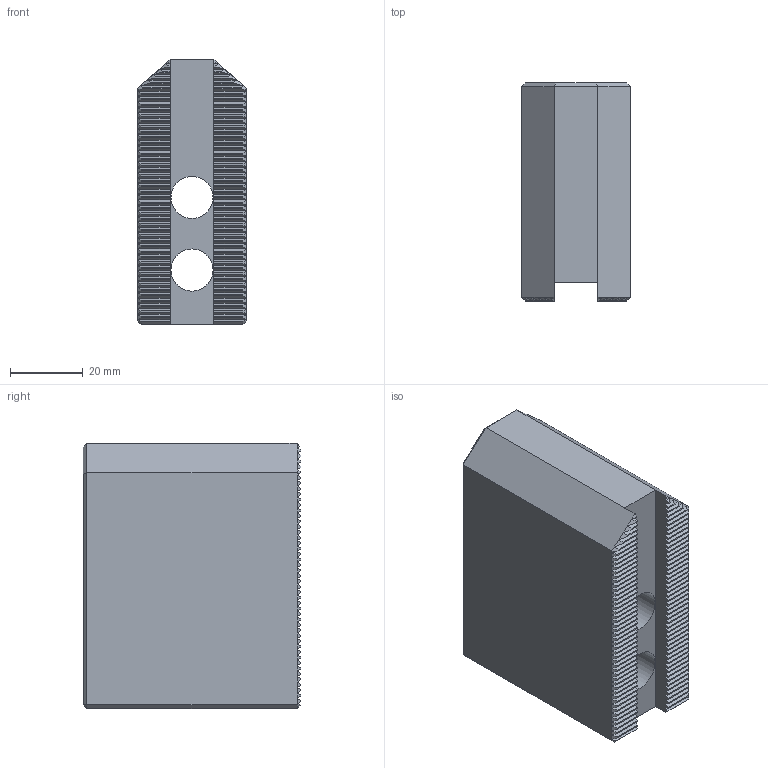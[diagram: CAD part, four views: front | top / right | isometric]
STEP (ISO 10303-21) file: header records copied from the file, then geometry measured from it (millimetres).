
FILE_DESCRIPTION(/* description */ (''),/* implementation_level */ '2;1');
FILE_NAME(/* name */ 'SC-06H60.stp',/* time_stamp */ '2024-09-11T16:34:58+03:00',/* author */ ('KanaanMD'),/* organization */ (''),/* preprocessor_version */ 'ST-DEVELOPER v19.2',/* originating_system */ 'Autodesk Inventor 2024',/* authorisation */ '');
FILE_SCHEMA (('AUTOMOTIVE_DESIGN { 1 0 10303 214 3 1 1 }'));
Length unit declared in the file: millimetre
Products named in the file (1): SC-06H60
Bounding box: 30 x 60 x 73 mm (x, y, z)
Volume: 99670 mm3; surface area: 22146.7 mm2
Topology: 1 solids, 1 shells, 418 faces, 1032 edges, 618 vertices
Faces by surface type: plane 412, cylinder 4, cone 2
Full cylindrical faces by diameter (mm): 11.6 x2, 17 x2
Entity records: 11879 total; most frequent: CARTESIAN_POINT 2069, ORIENTED_EDGE 2064, DIRECTION 1882, EDGE_CURVE 1032, LINE 1020, VECTOR 1020, VERTEX_POINT 618, AXIS2_PLACEMENT_3D 431
